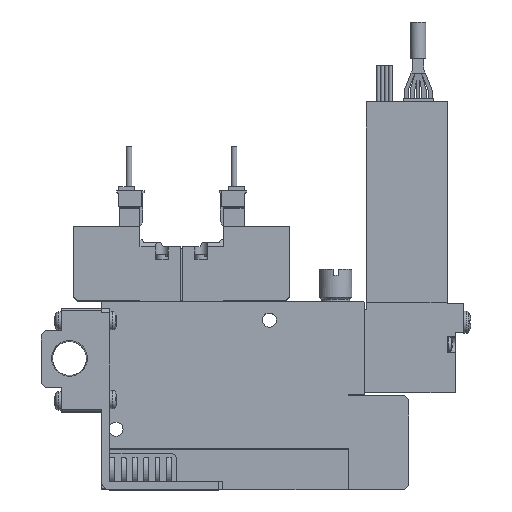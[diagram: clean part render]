
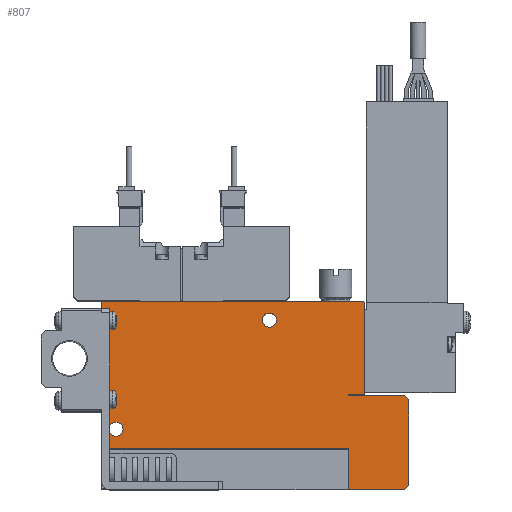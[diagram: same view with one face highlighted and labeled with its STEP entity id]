
A CAD part, top view. The second image highlights one B-rep face of the part: STEP entity #807.
In plain terms, the highlighted planar face has unit normal (0, 0, 1).
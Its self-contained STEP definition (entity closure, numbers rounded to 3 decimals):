
#807=ADVANCED_FACE('',(#1960,#1961,#1962),#1963,.F.);
#1960=FACE_OUTER_BOUND('',#3470,.T.);
#1961=FACE_BOUND('',#3471,.T.);
#1962=FACE_BOUND('',#3472,.T.);
#1963=PLANE('',#3473);
#3470=EDGE_LOOP('',(#7480,#7481,#7482,#7483,#7484,#7485,#7486,#7487,#7488,#7489,#7490,#7491,#7492,#7493));
#3471=EDGE_LOOP('',(#7494));
#3472=EDGE_LOOP('',(#7495));
#3473=AXIS2_PLACEMENT_3D('',#7496,#7497,#7498);
#7480=ORIENTED_EDGE('',*,*,#10691,.T.);
#7481=ORIENTED_EDGE('',*,*,#10599,.F.);
#7482=ORIENTED_EDGE('',*,*,#10699,.F.);
#7483=ORIENTED_EDGE('',*,*,#10475,.T.);
#7484=ORIENTED_EDGE('',*,*,#10700,.T.);
#7485=ORIENTED_EDGE('',*,*,#10701,.T.);
#7486=ORIENTED_EDGE('',*,*,#10554,.T.);
#7487=ORIENTED_EDGE('',*,*,#10551,.T.);
#7488=ORIENTED_EDGE('',*,*,#10702,.T.);
#7489=ORIENTED_EDGE('',*,*,#10636,.T.);
#7490=ORIENTED_EDGE('',*,*,#10622,.T.);
#7491=ORIENTED_EDGE('',*,*,#10703,.T.);
#7492=ORIENTED_EDGE('',*,*,#10575,.T.);
#7493=ORIENTED_EDGE('',*,*,#10641,.T.);
#7494=ORIENTED_EDGE('',*,*,#10595,.F.);
#7495=ORIENTED_EDGE('',*,*,#10704,.F.);
#7496=CARTESIAN_POINT('',(0.0,0.0,5.0));
#7497=DIRECTION('',(0.0,0.0,-1.0));
#7498=DIRECTION('',(0.0,-1.0,0.0));
#10475=EDGE_CURVE('',#12845,#12849,#12851,.T.);
#10551=EDGE_CURVE('',#12992,#12990,#12993,.T.);
#10554=EDGE_CURVE('',#12997,#12992,#12998,.T.);
#10575=EDGE_CURVE('',#13032,#13030,#13033,.T.);
#10595=EDGE_CURVE('',#13067,#13067,#13068,.T.);
#10599=EDGE_CURVE('',#13074,#13075,#13076,.T.);
#10622=EDGE_CURVE('',#13116,#13114,#13117,.T.);
#10636=EDGE_CURVE('',#13137,#13116,#13138,.T.);
#10641=EDGE_CURVE('',#13030,#13144,#13146,.T.);
#10691=EDGE_CURVE('',#13144,#13075,#13224,.T.);
#10699=EDGE_CURVE('',#12845,#13074,#13236,.T.);
#10700=EDGE_CURVE('',#12849,#13237,#13238,.T.);
#10701=EDGE_CURVE('',#13237,#12997,#13239,.T.);
#10702=EDGE_CURVE('',#12990,#13137,#13240,.T.);
#10703=EDGE_CURVE('',#13114,#13032,#13241,.T.);
#10704=EDGE_CURVE('',#13242,#13242,#13243,.T.);
#12845=VERTEX_POINT('',#16766);
#12849=VERTEX_POINT('',#16772);
#12851=LINE('',#16775,#16776);
#12990=VERTEX_POINT('',#16995);
#12992=VERTEX_POINT('',#16998);
#12993=LINE('',#16999,#17000);
#12997=VERTEX_POINT('',#17006);
#12998=LINE('',#17007,#17008);
#13030=VERTEX_POINT('',#17057);
#13032=VERTEX_POINT('',#17060);
#13033=LINE('',#17061,#17062);
#13067=VERTEX_POINT('',#17121);
#13068=CIRCLE('',#17122,1.75);
#13074=VERTEX_POINT('',#17131);
#13075=VERTEX_POINT('',#17132);
#13076=LINE('',#17133,#17134);
#13114=VERTEX_POINT('',#17199);
#13116=VERTEX_POINT('',#17202);
#13117=LINE('',#17203,#17204);
#13137=VERTEX_POINT('',#17234);
#13138=LINE('',#17235,#17236);
#13144=VERTEX_POINT('',#17243);
#13146=LINE('',#17246,#17247);
#13224=LINE('',#17379,#17380);
#13236=LINE('',#17406,#17407);
#13237=VERTEX_POINT('',#17408);
#13238=LINE('',#17409,#17410);
#13239=LINE('',#17411,#17412);
#13240=LINE('',#17413,#17414);
#13241=LINE('',#17415,#17416);
#13242=VERTEX_POINT('',#17417);
#13243=CIRCLE('',#17418,1.75);
#16766=CARTESIAN_POINT('',(61.1,0.0,5.0));
#16772=CARTESIAN_POINT('',(75.0,0.0,5.0));
#16775=CARTESIAN_POINT('',(0.0,0.0,5.0));
#16776=VECTOR('',#20485,1.0);
#16995=CARTESIAN_POINT('',(61.0,23.25,5.0));
#16998=CARTESIAN_POINT('',(75.0,23.25,5.0));
#16999=CARTESIAN_POINT('',(75.0,23.25,5.0));
#17000=VECTOR('',#20596,1.0);
#17006=CARTESIAN_POINT('',(76.0,22.25,5.0));
#17007=CARTESIAN_POINT('',(76.0,22.25,5.0));
#17008=VECTOR('',#20599,1.0);
#17057=CARTESIAN_POINT('',(0.2,46.6,5.0));
#17060=CARTESIAN_POINT('',(64.8,46.6,5.0));
#17061=CARTESIAN_POINT('',(64.8,46.6,5.0));
#17062=VECTOR('',#20624,1.0);
#17121=CARTESIAN_POINT('',(5.25,15.0,5.0));
#17122=AXIS2_PLACEMENT_3D('',#20649,#20650,#20651);
#17131=CARTESIAN_POINT('',(61.1,10.1,5.0));
#17132=CARTESIAN_POINT('',(0.0,10.1,5.0));
#17133=CARTESIAN_POINT('',(61.1,10.1,5.0));
#17134=VECTOR('',#20655,1.0);
#17199=CARTESIAN_POINT('',(65.0,46.4,5.0));
#17202=CARTESIAN_POINT('',(65.0,23.5,5.0));
#17203=CARTESIAN_POINT('',(65.0,23.5,5.0));
#17204=VECTOR('',#20683,1.0);
#17234=CARTESIAN_POINT('',(61.0,23.5,5.0));
#17235=CARTESIAN_POINT('',(61.0,23.5,5.0));
#17236=VECTOR('',#20703,1.0);
#17243=CARTESIAN_POINT('',(0.0,46.4,5.0));
#17246=CARTESIAN_POINT('',(0.2,46.6,5.0));
#17247=VECTOR('',#20712,1.0);
#17379=CARTESIAN_POINT('',(0.0,46.4,5.0));
#17380=VECTOR('',#20784,1.0);
#17406=CARTESIAN_POINT('',(61.1,0.0,5.0));
#17407=VECTOR('',#20793,1.0);
#17408=CARTESIAN_POINT('',(76.0,1.0,5.0));
#17409=CARTESIAN_POINT('',(75.0,0.0,5.0));
#17410=VECTOR('',#20794,1.0);
#17411=CARTESIAN_POINT('',(76.0,1.0,5.0));
#17412=VECTOR('',#20795,1.0);
#17413=CARTESIAN_POINT('',(61.0,23.25,5.0));
#17414=VECTOR('',#20796,1.0);
#17415=CARTESIAN_POINT('',(65.0,46.4,5.0));
#17416=VECTOR('',#20797,1.0);
#17417=CARTESIAN_POINT('',(43.25,42.0,5.0));
#17418=AXIS2_PLACEMENT_3D('',#20798,#20799,#20800);
#20485=DIRECTION('',(1.0,0.0,0.0));
#20596=DIRECTION('',(-1.0,0.0,0.0));
#20599=DIRECTION('',(-0.707,0.707,0.0));
#20624=DIRECTION('',(-1.0,0.0,0.0));
#20649=CARTESIAN_POINT('',(3.5,15.0,5.0));
#20650=DIRECTION('',(0.0,0.0,1.0));
#20651=DIRECTION('',(1.0,0.0,0.0));
#20655=DIRECTION('',(-1.0,0.0,0.0));
#20683=DIRECTION('',(0.0,1.0,0.0));
#20703=DIRECTION('',(1.0,0.,0.0));
#20712=DIRECTION('',(-0.707,-0.707,0.0));
#20784=DIRECTION('',(0.0,-1.0,0.0));
#20793=DIRECTION('',(0.0,1.0,0.0));
#20794=DIRECTION('',(0.707,0.707,0.0));
#20795=DIRECTION('',(0.0,1.0,0.0));
#20796=DIRECTION('',(0.0,1.0,0.0));
#20797=DIRECTION('',(-0.707,0.707,0.0));
#20798=CARTESIAN_POINT('',(41.5,42.0,5.0));
#20799=DIRECTION('',(0.0,0.0,1.0));
#20800=DIRECTION('',(1.0,0.0,0.0));
